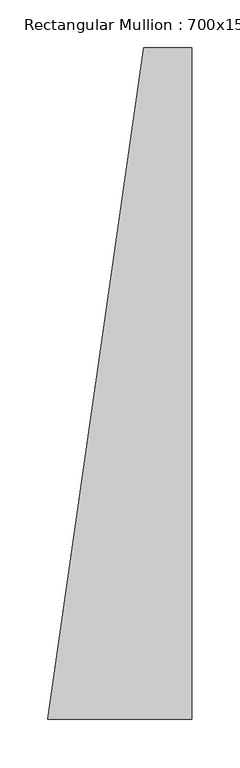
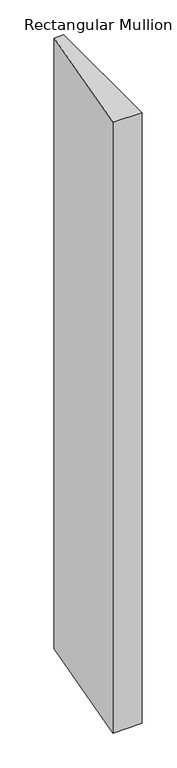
"""IFC4 building model written with IfcOpenShell, lengths in millimetres: member geometry, Rectangular Mullion : 700x150x50mm."""

from ifc_helpers import new_model, si_unit, frame, origin, place, context, project, spatial, polyline, outline, extrude, source, transform, mapped, element, save


def rectangular_mullion_700x150x50mm_4534a800(model_context):
    return source(origin(), model_context, "Body", "SweptSolid", [
        extrude(outline(polyline([(0.0, -350.0), (-150.0, -350.0), (-50.0, 350.0), (0.0, 350.0), (0.0, -350.0)])), frame((0.0, 0.0, -3333.3333326), z_axis=(0.0, 0.0, 1.0), x_axis=(1.0, 0.0, 0.0)), (0.0, 0.0, 1.0), 3333.3333326),
    ])


if __name__ == "__main__":
    model = new_model("IFC4")
    model_context = context("Model", 3, world=origin())
    ifc_project = project(units=[si_unit("LENGTHUNIT", "METRE", prefix="MILLI")], contexts=[model_context])
    site = spatial("IfcSite", under=ifc_project)
    building = spatial("IfcBuilding", under=site)
    placement = place(None, origin())
    rectangular_mullion_700x150x50mm_shape = rectangular_mullion_700x150x50mm_4534a800(model_context)
    element("IfcMember", 1, ObjectType="Rectangular Mullion : 700x150x50mm", at=placement, inside=building, context=model_context, shape_type="MappedRepresentation", body=[
        mapped(rectangular_mullion_700x150x50mm_shape, transform((0.0, 0.0, 0.0), x_axis=(1.0, 0.0, 0.0), y_axis=(0.0, 1.0, 0.0), z_axis=(0.0, 0.0, 1.0))),
    ])
    save(model, "model.ifc")
